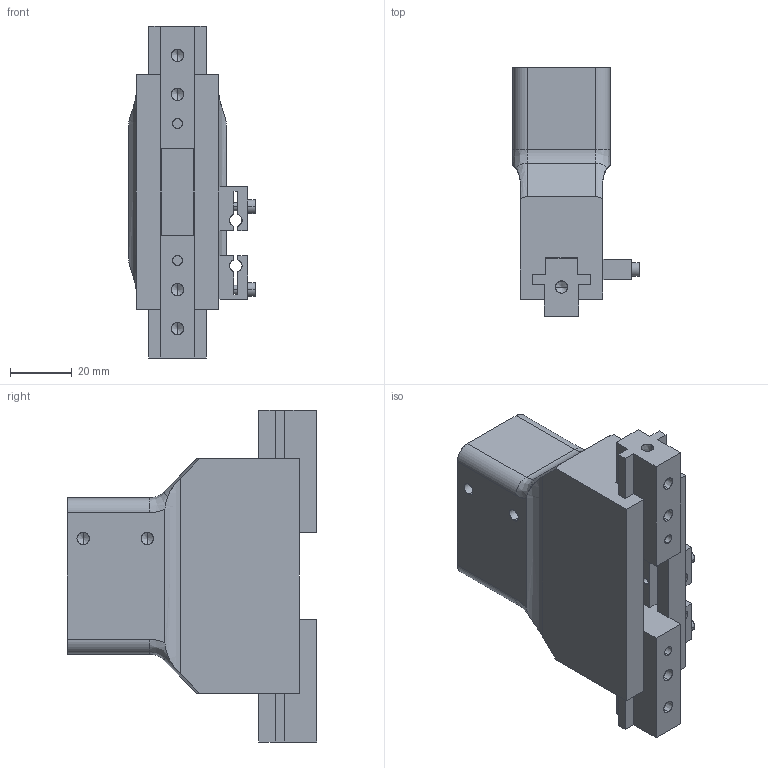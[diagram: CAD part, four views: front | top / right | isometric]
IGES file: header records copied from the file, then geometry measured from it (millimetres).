
Start section: SolidWorks IGES file using analytic representation for surfaces
Global section: file name: C:\Users\jmkuhnes\Pictures\PERSONAL\AGPT\AGPT-1125\AGPT-1125 OPEN in IN.IGS; native system: SolidWorks 2013; preprocessor: SolidWorks 2013; author: jmkuhnes; date: 141031.153259; units: inch
Bounding box: 41.17 x 81.08 x 107.95 mm (x, y, z)
Surface area: 31525.1 mm2 (no closed solid volume)
Topology: 0 solids, 0 shells, 217 faces, 2652 edges, 2632 vertices
Faces by surface type: bspline 117, revolution 100
